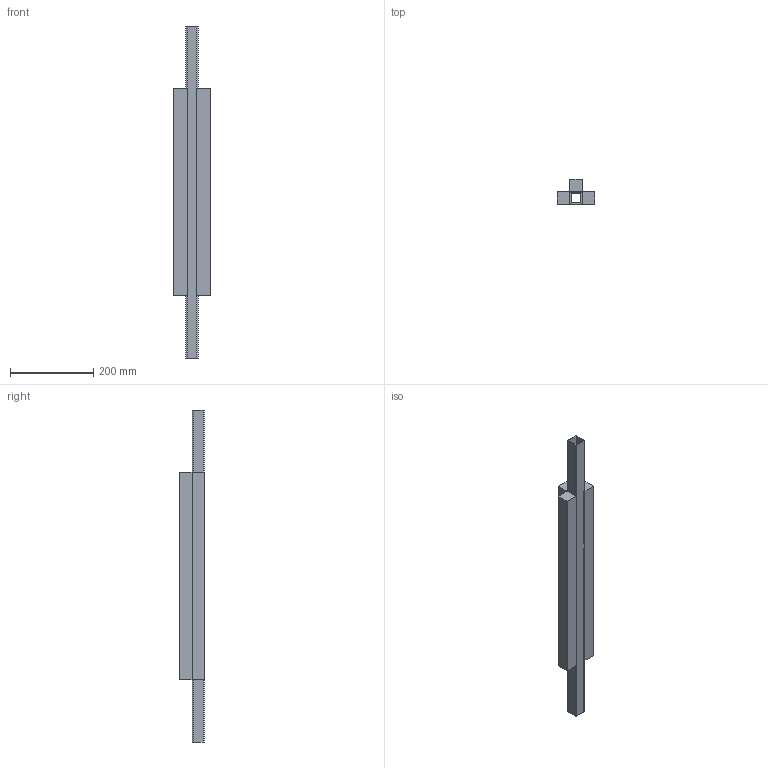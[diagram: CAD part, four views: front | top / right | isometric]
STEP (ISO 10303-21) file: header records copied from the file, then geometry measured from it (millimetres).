
FILE_DESCRIPTION (( 'STEP AP214' ), '1' );
FILE_NAME ('0003491_0_00.step', '2018-07-12T10:33:19', ( '' ), ( '' ), 'SwSTEP 2.0', 'SolidWorks 2018', '' );
FILE_SCHEMA (( 'AUTOMOTIVE_DESIGN' ));
Length unit declared in the file: millimetre
Products named in the file (3): 0003491_0_02_3 lame L=500; 0003491_0_01_3 lame L=500; 0003491_0_00
Assembly tree (2 placements, depth 2):
  0003491_0_00
    0003491_0_01_3 lame L=500
    0003491_0_02_3 lame L=500
Bounding box: 90 x 60 x 800 mm (x, y, z)
Volume: 1606882.3 mm3; surface area: 358152.4 mm2
Topology: 2 solids, 2 shells, 32 faces, 84 edges, 56 vertices
Faces by surface type: plane 24, cylinder 8
Entity records: 1252 total; most frequent: CARTESIAN_POINT 177, DIRECTION 174, ORIENTED_EDGE 168, EDGE_CURVE 84, VECTOR 68, LINE 68, VERTEX_POINT 56, AXIS2_PLACEMENT_3D 53
